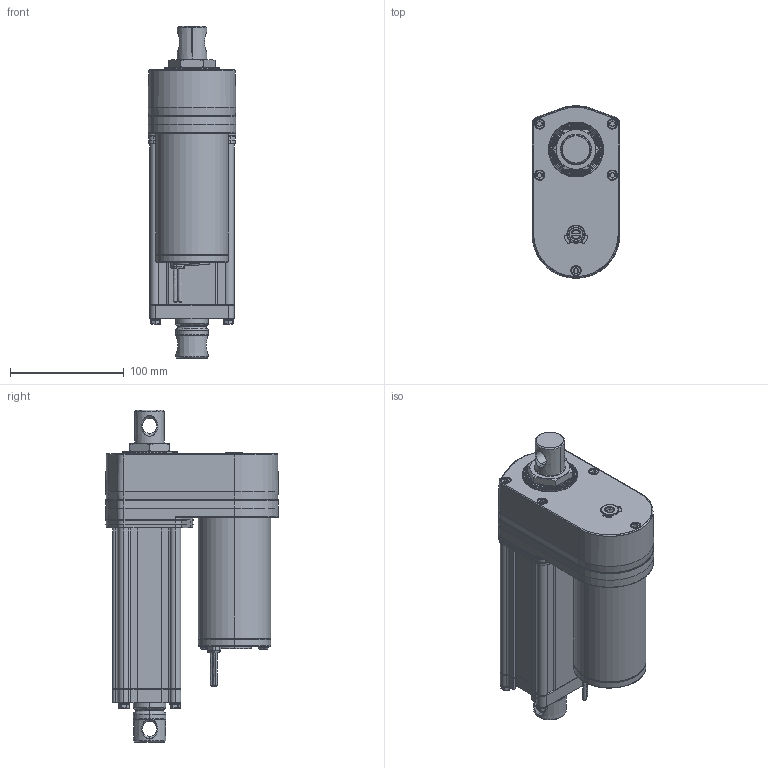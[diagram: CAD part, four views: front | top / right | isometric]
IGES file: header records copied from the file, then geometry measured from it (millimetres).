
Start section: SolidWorks IGES file using analytic representation for surfaces
Global section: file name: C:\Users\lynn\Desktop\工作用資料夾\3D CAD Models Community\ID12(over)\手動搖柄驅動選項\3D\ID12-ACME standard-with Manual drive\ID12-A-100-MD.IGS,15HSolidWorks; native system: 2020; preprocessor: SolidWorks 2020; author: lynn; date: 221103.144021; units: millimetre
Bounding box: 77.15 x 151.65 x 291.5 mm (x, y, z)
Surface area: 159886.9 mm2 (no closed solid volume)
Topology: 0 solids, 0 shells, 1181 faces, 11787 edges, 11759 vertices
Faces by surface type: bspline 815, revolution 366
